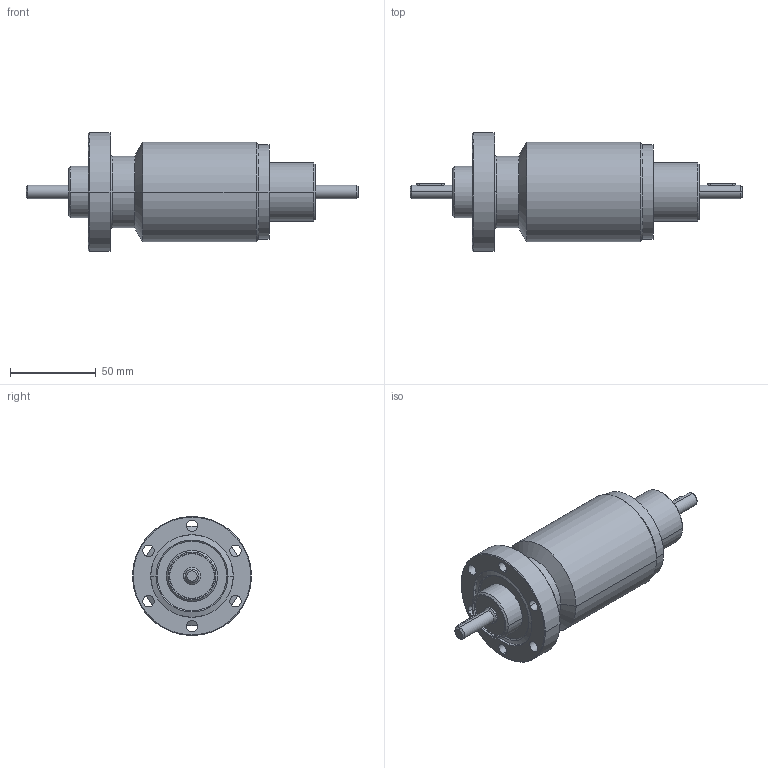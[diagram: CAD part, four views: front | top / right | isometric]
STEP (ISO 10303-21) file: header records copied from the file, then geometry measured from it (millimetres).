
FILE_DESCRIPTION((''),'2;1');
FILE_NAME('N:\Transfer\Berger Martin\Leybold\C15\210155.stp','2005-02-07T10:00:13',('VCRC_L'),(''),'Autodesk Inventor 9','Autodesk Inventor 9','');
FILE_SCHEMA(('AUTOMOTIVE_DESIGN { 1 0 10303 214 1 1 1 1 }'));
Length unit declared in the file: millimetre
Products named in the file (1): 210155
Bounding box: 194 x 69.5 x 69.5 mm (x, y, z)
Volume: 296280.1 mm3; surface area: 36411.6 mm2
Topology: 1 solids, 1 shells, 99 faces, 227 edges, 143 vertices
Faces by surface type: cylinder 32, cone 30, plane 19, bspline 18
Entity records: 3333 total; most frequent: CARTESIAN_POINT 1010, DIRECTION 516, ORIENTED_EDGE 454, EDGE_CURVE 227, AXIS2_PLACEMENT_3D 215, VERTEX_POINT 143, CIRCLE 133, EDGE_LOOP 124
